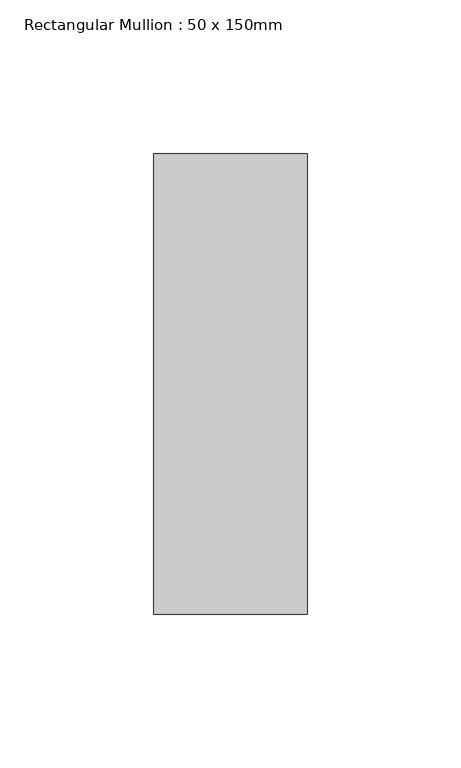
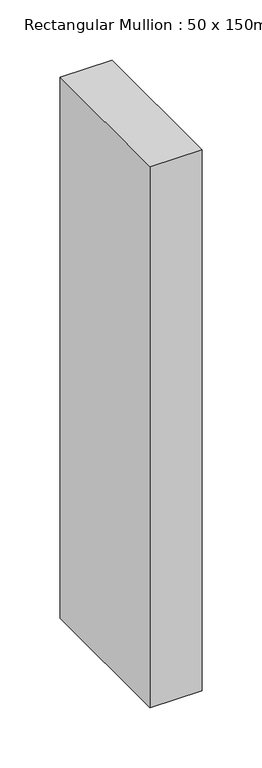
"""IFC4 building model written with IfcOpenShell, lengths in millimetres: member geometry, Rectangular Mullion : 50 x 150mm."""

from ifc_helpers import new_model, si_unit, frame, origin, place, context, project, spatial, polyline, outline, extrude, source, transform, mapped, element, save


def rectangular_mullion_50_x_150mm_ef0603af(model_context):
    return source(origin(), model_context, "Body", "SweptSolid", [
        extrude(outline(polyline([(0.0, 75.0), (0.0, -75.0), (-50.0, -75.0), (-50.0, 75.0), (0.0, 75.0)])), frame((0.0, 0.0, -549.9999999), z_axis=(0.0, 0.0, 1.0), x_axis=(1.0, 0.0, 0.0)), (0.0, 0.0, 1.0), 549.9999999),
    ])


if __name__ == "__main__":
    model = new_model("IFC4")
    model_context = context("Model", 3, world=origin())
    ifc_project = project(units=[si_unit("LENGTHUNIT", "METRE", prefix="MILLI")], contexts=[model_context])
    site = spatial("IfcSite", under=ifc_project)
    building = spatial("IfcBuilding", under=site)
    placement = place(None, origin())
    rectangular_mullion_50_x_150mm_shape = rectangular_mullion_50_x_150mm_ef0603af(model_context)
    element("IfcMember", 1, ObjectType="Rectangular Mullion : 50 x 150mm", at=placement, inside=building, context=model_context, shape_type="MappedRepresentation", body=[
        mapped(rectangular_mullion_50_x_150mm_shape, transform((0.0, 0.0, 0.0), x_axis=(1.0, 0.0, 0.0), y_axis=(0.0, 1.0, 0.0), z_axis=(0.0, 0.0, 1.0))),
    ])
    save(model, "model.ifc")
